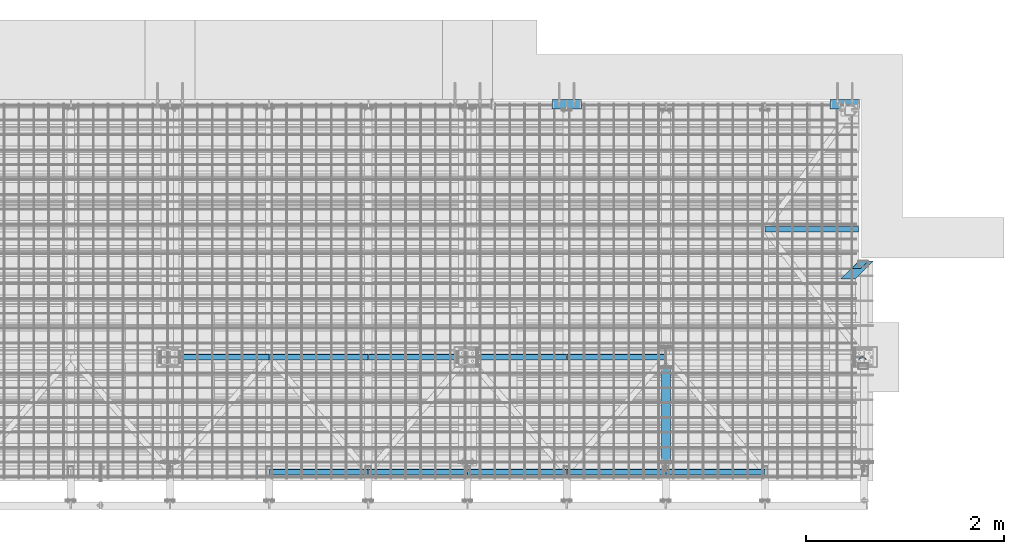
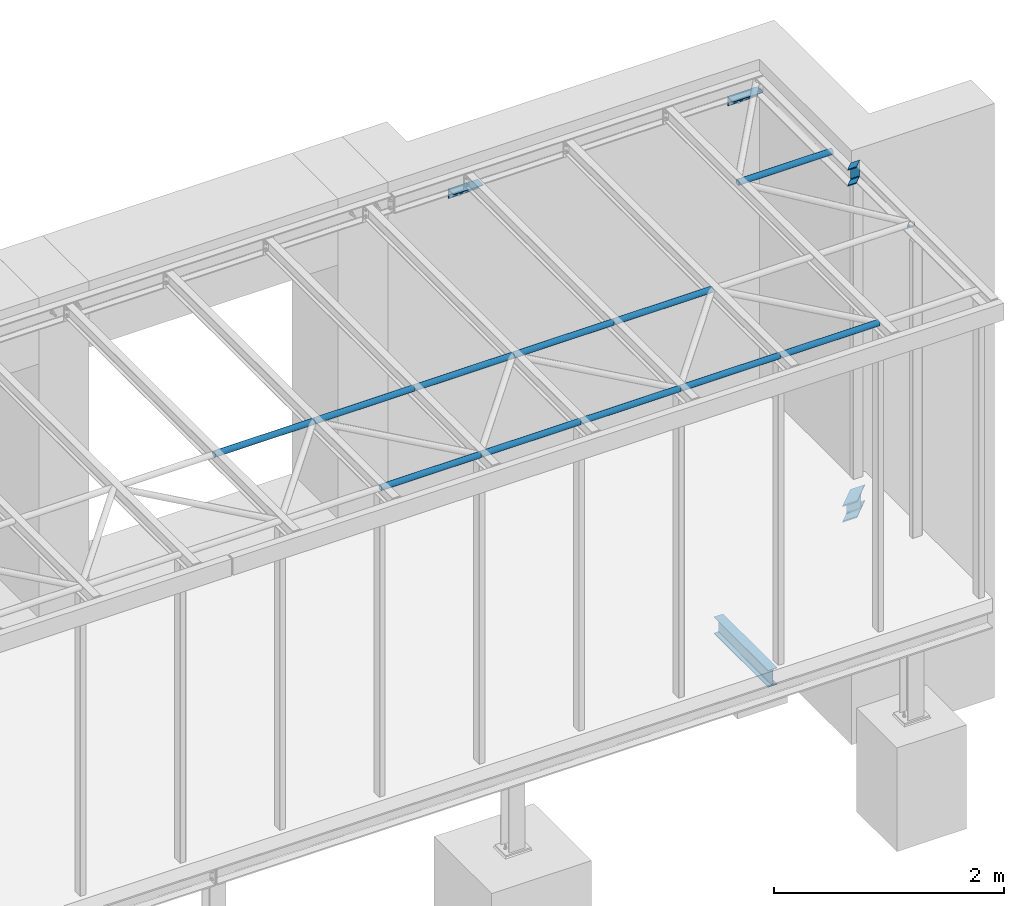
# One storey, part 10 of 27: 17 beams, 17 elements without a shape of their own.
"""IFC2X3 building model written with IfcOpenShell, lengths in millimetres."""

from ifc_helpers import new_model, si_unit, frame, origin_with_axes, origin_2d_with_axis, place, context, subcontext, project, spatial, hollow_circle, i_section, l_section, u_section, extrude, boolean, clip, halfspace, material, type_object, element, aggregate, save


model = new_model("IFC2X3")

# Units and contexts
model_context = context("Model", 3, precision=1e-05, world=origin_with_axes())
body_context = subcontext(model_context, "Body", "Model", "MODEL_VIEW")
ifc_project = project(units=[si_unit("LENGTHUNIT", "METRE", prefix="MILLI"), si_unit("AREAUNIT", "SQUARE_METRE"), si_unit("VOLUMEUNIT", "CUBIC_METRE"), si_unit("MASSUNIT", "GRAM", prefix="KILO"), si_unit("TIMEUNIT", "SECOND"), si_unit("PLANEANGLEUNIT", "RADIAN"), si_unit("SOLIDANGLEUNIT", "STERADIAN"), si_unit("THERMODYNAMICTEMPERATUREUNIT", "DEGREE_CELSIUS"), si_unit("LUMINOUSINTENSITYUNIT", "LUMEN")], contexts=[model_context])

# Site, building, storey
site_placement = place(None, origin_with_axes())
site = spatial("IfcSite", under=ifc_project, at=site_placement, Name="Undefined", CompositionType="ELEMENT")
building_placement = place(site_placement, origin_with_axes())
building = spatial("IfcBuilding", under=site, at=building_placement, Name="Undefined", CompositionType="ELEMENT")
storey_placement = place(building_placement, origin_with_axes())
storey = spatial("IfcBuildingStorey", under=building, at=storey_placement, Name="Undefined", CompositionType="ELEMENT", Elevation=0.0)

# Assembly, beam
assembly_1_placement = place(storey_placement, origin_with_axes())
assembly_1 = element("IfcElementAssembly", 1, at=assembly_1_placement, inside=storey, Name="Steel Assembly", AssemblyPlace="NOTDEFINED", PredefinedType="RIGID_FRAME")
ifc_material = material(Name="STEEL/S235JR")
beam_type_1 = type_object("IfcBeamType", Name="IPE180", PredefinedType="NOTDEFINED")
beam_1_placement = place(assembly_1_placement, frame((14050.0, 1150.0, -250.0), z_axis=(0.0, 0.0, 1.0), x_axis=(0.0, -1.0, 0.0)))
beam_1 = element("IfcBeam", 2, at=beam_1_placement, type_object=beam_type_1, material=ifc_material, Name="NOSNÍK", ObjectType="IPE180", context=body_context, shape_type="SweptSolid", body=[
    extrude(i_section(OverallWidth=91.0, OverallDepth=180.0, WebThickness=5.300000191, FlangeThickness=8.0, FilletRadius=9.0, at=origin_2d_with_axis()), frame((940.0, 0.0, 0.0), z_axis=(-1.0, 0.0, 0.0), x_axis=(0.0, -1.0, 0.0)), (0.0, 0.0, 1.0), 940.0),
])
aggregate(assembly_1, [beam_1])

assembly_2_placement = place(storey_placement, origin_with_axes())
assembly_2 = element("IfcElementAssembly", 3, at=assembly_2_placement, inside=storey, Name="Steel Assembly", AssemblyPlace="NOTDEFINED", PredefinedType="RIGID_FRAME")
beam_type_2 = type_object("IfcBeamType", Name="HEB180", PredefinedType="NOTDEFINED")
beam_2_placement = place(assembly_2_placement, frame((16150.0, 2140.0, -250.0), z_axis=(0.0, 0.0, -1.0), x_axis=(-1.0, 0.0, 0.0)))
beam_2 = element("IfcBeam", 4, at=beam_2_placement, type_object=beam_type_2, material=ifc_material, Name="NOSNÍK", ObjectType="HEB180", context=body_context, shape_type="Clipping", body=[
    clip(clip(extrude(i_section(OverallWidth=180.0, OverallDepth=180.0, WebThickness=8.5, FlangeThickness=14.0, FilletRadius=15.0, at=origin_2d_with_axis()), frame((345.0, 0.0, 0.0), z_axis=(-1.0, 0.0, 0.0), x_axis=(0.0, -1.0, 0.0)), (0.0, 0.0, 1.0), 345.0), halfspace(frame((0.0, 100.0, -90.0), z_axis=(-0.707106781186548, -0.707106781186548, 0.0), x_axis=(0.0, 0.0, 1.0)), False)), halfspace(frame((345.0, -100.0, -90.0), z_axis=(0.707106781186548, 0.707106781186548, 0.0), x_axis=(0.0, 0.0, 1.0)), False)),
])
aggregate(assembly_2, [beam_2])

assembly_3_placement = place(storey_placement, origin_with_axes())
assembly_3 = element("IfcElementAssembly", 5, at=assembly_3_placement, inside=storey, Name="Steel Assembly", AssemblyPlace="NOTDEFINED", PredefinedType="RIGID_FRAME")
beam_type_3 = type_object("IfcBeamType", Name="UPE180", PredefinedType="NOTDEFINED")
beam_3_placement = place(assembly_3_placement, frame((15925.0, 2192.5, 3210.0), z_axis=(0.0, 0.0, 1.0), x_axis=(1.0, 0.0, 0.0)))
beam_3 = element("IfcBeam", 6, at=beam_3_placement, type_object=beam_type_3, material=ifc_material, Name="NOSNÍK", ObjectType="UPE180", context=body_context, shape_type="Clipping", body=[
    clip(clip(extrude(u_section(Depth=180.0, FlangeWidth=75.0, WebThickness=5.5, FlangeThickness=10.5, FilletRadius=12.0, at=origin_2d_with_axis()), frame((165.0, 0.0, 0.0), z_axis=(-1.0, 0.0, 0.0), x_axis=(0.0, -1.0, 0.0)), (0.0, 0.0, 1.0), 165.0), halfspace(frame((90.0, -37.5, -90.0), z_axis=(0.707106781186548, -0.707106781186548, 0.0), x_axis=(0.0, 0.0, 1.0)), False)), halfspace(frame((75.0, 37.5, -90.0), z_axis=(-0.707106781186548, 0.707106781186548, 0.0), x_axis=(0.0, 0.0, 1.0)), False)),
])
aggregate(assembly_3, [beam_3])

assembly_4_placement = place(storey_placement, origin_with_axes())
assembly_4 = element("IfcElementAssembly", 7, at=assembly_4_placement, inside=storey, Name="Steel Assembly", AssemblyPlace="NOTDEFINED", PredefinedType="RIGID_FRAME")
beam_type_4 = type_object("IfcBeamType", Name="CHS60.3*5", PredefinedType="NOTDEFINED")
beam_4_placement = place(assembly_4_placement, frame((15050.0, 2550.0, 3230.0), z_axis=(0.0, 0.0, -1.0), x_axis=(1.0, 0.0, 0.0)))
beam_4 = element("IfcBeam", 8, at=beam_4_placement, type_object=beam_type_4, material=ifc_material, Name="NOSNÍK", ObjectType="CHS60.3*5", context=body_context, shape_type="SweptSolid", body=[
    extrude(hollow_circle(Radius=30.15, WallThickness=5.0, at=origin_2d_with_axis()), frame((945.0, 0.0, 0.0), z_axis=(-1.0, 0.0, 0.0), x_axis=(0.0, -1.0, 0.0)), (0.0, 0.0, 1.0), 945.0),
])
aggregate(assembly_4, [beam_4])

assembly_5_placement = place(storey_placement, origin_with_axes())
assembly_5 = element("IfcElementAssembly", 9, at=assembly_5_placement, inside=storey, Name="Steel Assembly", AssemblyPlace="NOTDEFINED", PredefinedType="RIGID_FRAME")
beam_5_placement = place(assembly_5_placement, frame((15050.0, 100.0, 3230.0), z_axis=(0.0, 0.0, -1.0), x_axis=(0.652939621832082, 0.757409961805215, 0.0)))
beam_5 = element("IfcBeam", 10, at=beam_5_placement, type_object=beam_type_4, material=ifc_material, Name="NOSNÍK", ObjectType="CHS60.3*5", context=body_context, shape_type="CSG", body=[
    boolean("DIFFERENCE", boolean("DIFFERENCE", boolean("DIFFERENCE", extrude(hollow_circle(Radius=30.15, WallThickness=5.0, at=origin_2d_with_axis()), frame((1531.53517752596, -1.81898940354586e-12, 0.0), z_axis=(-1.0, 0.0, 0.0), x_axis=(0.0, -1.0, 0.0)), (0.0, 0.0, 1.0), 1531.5), extrude(hollow_circle(Radius=30.15, WallThickness=5.0, at=origin_2d_with_axis()), frame((1554.06159447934, 26.1306441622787, 0.0), z_axis=(-0.652939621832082, -0.757409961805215, 0.0), x_axis=(0.757409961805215, -0.652939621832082, 0.0)), (0.0, 0.0, 1.0), 1034.5)), extrude(hollow_circle(Radius=30.15, WallThickness=5.0, at=origin_2d_with_axis()), frame((675.46603878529, 783.540605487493, 0.0), z_axis=(-0.652939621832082, -0.757409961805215, 0.0), x_axis=(0.757409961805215, -0.652939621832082, 0.0)), (0.0, 0.0, 1.0), 1032.1)), halfspace(frame((-31.3748924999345, 30.1499999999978, -30.1500000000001), z_axis=(-0.652939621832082, -0.757409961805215, 0.0), x_axis=(0.0, 0.0, 1.0)), False)),
])
aggregate(assembly_5, [beam_5])

assembly_6_placement = place(storey_placement, origin_with_axes())
assembly_6 = element("IfcElementAssembly", 11, at=assembly_6_placement, inside=storey, Name="Steel Assembly", AssemblyPlace="NOTDEFINED", PredefinedType="RIGID_FRAME")
beam_6_placement = place(assembly_6_placement, frame((14052.35, 100.0, 3230.0), z_axis=(0.0, 0.0, -1.0), x_axis=(1.0, 0.0, 0.0)))
beam_6 = element("IfcBeam", 12, at=beam_6_placement, type_object=beam_type_4, material=ifc_material, Name="NOSNÍK", ObjectType="CHS60.3*5", context=body_context, shape_type="SweptSolid", body=[
    extrude(hollow_circle(Radius=30.15, WallThickness=5.0, at=origin_2d_with_axis()), frame((995.299999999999, 0.0, 0.0), z_axis=(-1.0, 0.0, 0.0), x_axis=(0.0, -1.0, 0.0)), (0.0, 0.0, 1.0), 995.3),
])
aggregate(assembly_6, [beam_6])

assembly_7_placement = place(storey_placement, origin_with_axes())
assembly_7 = element("IfcElementAssembly", 13, at=assembly_7_placement, inside=storey, Name="Steel Assembly", AssemblyPlace="NOTDEFINED", PredefinedType="RIGID_FRAME")
beam_7_placement = place(assembly_7_placement, frame((13052.35, 100.0, 3230.0), z_axis=(0.0, 0.0, -1.0), x_axis=(1.0, 0.0, 0.0)))
beam_7 = element("IfcBeam", 14, at=beam_7_placement, type_object=beam_type_4, material=ifc_material, Name="NOSNÍK", ObjectType="CHS60.3*5", context=body_context, shape_type="SweptSolid", body=[
    extrude(hollow_circle(Radius=30.15, WallThickness=5.0, at=origin_2d_with_axis()), frame((995.299999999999, 0.0, 0.0), z_axis=(-1.0, 0.0, 0.0), x_axis=(0.0, -1.0, 0.0)), (0.0, 0.0, 1.0), 995.3),
])
aggregate(assembly_7, [beam_7])

assembly_8_placement = place(storey_placement, origin_with_axes())
assembly_8 = element("IfcElementAssembly", 15, at=assembly_8_placement, inside=storey, Name="Steel Assembly", AssemblyPlace="NOTDEFINED", PredefinedType="RIGID_FRAME")
beam_8_placement = place(assembly_8_placement, frame((12052.35, 100.0, 3230.0), z_axis=(0.0, 0.0, -1.0), x_axis=(1.0, 0.0, 0.0)))
beam_8 = element("IfcBeam", 16, at=beam_8_placement, type_object=beam_type_4, material=ifc_material, Name="NOSNÍK", ObjectType="CHS60.3*5", context=body_context, shape_type="SweptSolid", body=[
    extrude(hollow_circle(Radius=30.15, WallThickness=5.0, at=origin_2d_with_axis()), frame((995.299999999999, 0.0, 0.0), z_axis=(-1.0, 0.0, 0.0), x_axis=(0.0, -1.0, 0.0)), (0.0, 0.0, 1.0), 995.3),
])
aggregate(assembly_8, [beam_8])

assembly_9_placement = place(storey_placement, origin_with_axes())
assembly_9 = element("IfcElementAssembly", 17, at=assembly_9_placement, inside=storey, Name="Steel Assembly", AssemblyPlace="NOTDEFINED", PredefinedType="RIGID_FRAME")
beam_9_placement = place(assembly_9_placement, frame((11052.35, 100.0, 3230.0), z_axis=(0.0, 0.0, -1.0), x_axis=(1.0, 0.0, 0.0)))
beam_9 = element("IfcBeam", 18, at=beam_9_placement, type_object=beam_type_4, material=ifc_material, Name="NOSNÍK", ObjectType="CHS60.3*5", context=body_context, shape_type="SweptSolid", body=[
    extrude(hollow_circle(Radius=30.15, WallThickness=5.0, at=origin_2d_with_axis()), frame((995.299999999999, 0.0, 0.0), z_axis=(-1.0, 0.0, 0.0), x_axis=(0.0, -1.0, 0.0)), (0.0, 0.0, 1.0), 995.3),
])
aggregate(assembly_9, [beam_9])

assembly_10_placement = place(storey_placement, origin_with_axes())
assembly_10 = element("IfcElementAssembly", 19, at=assembly_10_placement, inside=storey, Name="Steel Assembly", AssemblyPlace="NOTDEFINED", PredefinedType="RIGID_FRAME")
beam_10_placement = place(assembly_10_placement, frame((10052.35, 100.0, 3230.0), z_axis=(0.0, 0.0, -1.0), x_axis=(1.0, 0.0, 0.0)))
beam_10 = element("IfcBeam", 20, at=beam_10_placement, type_object=beam_type_4, material=ifc_material, Name="NOSNÍK", ObjectType="CHS60.3*5", context=body_context, shape_type="SweptSolid", body=[
    extrude(hollow_circle(Radius=30.15, WallThickness=5.0, at=origin_2d_with_axis()), frame((995.299999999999, 0.0, 0.0), z_axis=(-1.0, 0.0, 0.0), x_axis=(0.0, -1.0, 0.0)), (0.0, 0.0, 1.0), 995.3),
])
aggregate(assembly_10, [beam_10])

assembly_11_placement = place(storey_placement, origin_with_axes())
assembly_11 = element("IfcElementAssembly", 21, at=assembly_11_placement, inside=storey, Name="Steel Assembly", AssemblyPlace="NOTDEFINED", PredefinedType="RIGID_FRAME")
beam_11_placement = place(assembly_11_placement, frame((13052.35, 1260.0, 3230.0), z_axis=(0.0, 0.0, -1.0), x_axis=(1.0, 0.0, 0.0)))
beam_11 = element("IfcBeam", 22, at=beam_11_placement, type_object=beam_type_4, material=ifc_material, Name="NOSNÍK", ObjectType="CHS60.3*5", context=body_context, shape_type="SweptSolid", body=[
    extrude(hollow_circle(Radius=30.15, WallThickness=5.0, at=origin_2d_with_axis()), frame((995.299999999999, 0.0, 0.0), z_axis=(-1.0, 0.0, 0.0), x_axis=(0.0, -1.0, 0.0)), (0.0, 0.0, 1.0), 995.3),
])
aggregate(assembly_11, [beam_11])

assembly_12_placement = place(storey_placement, origin_with_axes())
assembly_12 = element("IfcElementAssembly", 23, at=assembly_12_placement, inside=storey, Name="Steel Assembly", AssemblyPlace="NOTDEFINED", PredefinedType="RIGID_FRAME")
beam_12_placement = place(assembly_12_placement, frame((12052.35, 1260.0, 3230.0), z_axis=(0.0, 0.0, -1.0), x_axis=(1.0, 0.0, 0.0)))
beam_12 = element("IfcBeam", 24, at=beam_12_placement, type_object=beam_type_4, material=ifc_material, Name="NOSNÍK", ObjectType="CHS60.3*5", context=body_context, shape_type="SweptSolid", body=[
    extrude(hollow_circle(Radius=30.15, WallThickness=5.0, at=origin_2d_with_axis()), frame((995.299999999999, 0.0, 0.0), z_axis=(-1.0, 0.0, 0.0), x_axis=(0.0, -1.0, 0.0)), (0.0, 0.0, 1.0), 995.3),
])
aggregate(assembly_12, [beam_12])

assembly_13_placement = place(storey_placement, origin_with_axes())
assembly_13 = element("IfcElementAssembly", 25, at=assembly_13_placement, inside=storey, Name="Steel Assembly", AssemblyPlace="NOTDEFINED", PredefinedType="RIGID_FRAME")
beam_13_placement = place(assembly_13_placement, frame((11052.35, 1260.0, 3230.0), z_axis=(0.0, 0.0, -1.0), x_axis=(1.0, 0.0, 0.0)))
beam_13 = element("IfcBeam", 26, at=beam_13_placement, type_object=beam_type_4, material=ifc_material, Name="NOSNÍK", ObjectType="CHS60.3*5", context=body_context, shape_type="SweptSolid", body=[
    extrude(hollow_circle(Radius=30.15, WallThickness=5.0, at=origin_2d_with_axis()), frame((995.299999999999, 0.0, 0.0), z_axis=(-1.0, 0.0, 0.0), x_axis=(0.0, -1.0, 0.0)), (0.0, 0.0, 1.0), 995.3),
])
aggregate(assembly_13, [beam_13])

assembly_14_placement = place(storey_placement, origin_with_axes())
assembly_14 = element("IfcElementAssembly", 27, at=assembly_14_placement, inside=storey, Name="Steel Assembly", AssemblyPlace="NOTDEFINED", PredefinedType="RIGID_FRAME")
beam_14_placement = place(assembly_14_placement, frame((10052.35, 1260.0, 3230.0), z_axis=(0.0, 0.0, -1.0), x_axis=(1.0, 0.0, 0.0)))
beam_14 = element("IfcBeam", 28, at=beam_14_placement, type_object=beam_type_4, material=ifc_material, Name="NOSNÍK", ObjectType="CHS60.3*5", context=body_context, shape_type="SweptSolid", body=[
    extrude(hollow_circle(Radius=30.15, WallThickness=5.0, at=origin_2d_with_axis()), frame((995.299999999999, 0.0, 0.0), z_axis=(-1.0, 0.0, 0.0), x_axis=(0.0, -1.0, 0.0)), (0.0, 0.0, 1.0), 995.3),
])
aggregate(assembly_14, [beam_14])

assembly_15_placement = place(storey_placement, origin_with_axes())
assembly_15 = element("IfcElementAssembly", 29, at=assembly_15_placement, inside=storey, Name="Steel Assembly", AssemblyPlace="NOTDEFINED", PredefinedType="RIGID_FRAME")
beam_15_placement = place(assembly_15_placement, frame((9052.35, 1260.0, 3230.0), z_axis=(0.0, 0.0, -1.0), x_axis=(1.0, 0.0, 0.0)))
beam_15 = element("IfcBeam", 30, at=beam_15_placement, type_object=beam_type_4, material=ifc_material, Name="NOSNÍK", ObjectType="CHS60.3*5", context=body_context, shape_type="SweptSolid", body=[
    extrude(hollow_circle(Radius=30.15, WallThickness=5.0, at=origin_2d_with_axis()), frame((995.299999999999, 0.0, 0.0), z_axis=(-1.0, 0.0, 0.0), x_axis=(0.0, -1.0, 0.0)), (0.0, 0.0, 1.0), 995.3),
])
aggregate(assembly_15, [beam_15])

assembly_16_placement = place(storey_placement, origin_with_axes())
assembly_16 = element("IfcElementAssembly", 31, at=assembly_16_placement, inside=storey, Name="Steel Assembly", AssemblyPlace="NOTDEFINED", PredefinedType="RIGID_FRAME")
beam_type_5 = type_object("IfcBeamType", Name="L100*10", PredefinedType="NOTDEFINED")
beam_16_placement = place(assembly_16_placement, frame((13200.0, 3810.0, 3070.0), z_axis=(0.0, 0.0, -1.0), x_axis=(-1.0, 0.0, 0.0)))
beam_16 = element("IfcBeam", 32, at=beam_16_placement, type_object=beam_type_5, material=ifc_material, Name="NOSNÍK", ObjectType="L100*10", context=body_context, shape_type="SweptSolid", body=[
    extrude(l_section(Depth=100.0, Width=100.0, Thickness=10.0, FilletRadius=12.0, EdgeRadius=6.0, at=origin_2d_with_axis()), frame((300.0, 0.0, 0.0), z_axis=(-1.0, 0.0, 0.0), x_axis=(0.0, -1.0, 0.0)), (0.0, 0.0, 1.0), 300.0),
])
aggregate(assembly_16, [beam_16])

assembly_17_placement = place(storey_placement, origin_with_axes())
assembly_17 = element("IfcElementAssembly", 33, at=assembly_17_placement, inside=storey, Name="Steel Assembly", AssemblyPlace="NOTDEFINED", PredefinedType="RIGID_FRAME")
beam_17_placement = place(assembly_17_placement, frame((16005.0, 3810.0, 3070.0), z_axis=(0.0, 0.0, -1.0), x_axis=(-1.0, 0.0, 0.0)))
beam_17 = element("IfcBeam", 34, at=beam_17_placement, type_object=beam_type_5, material=ifc_material, Name="NOSNÍK", ObjectType="L100*10", context=body_context, shape_type="SweptSolid", body=[
    extrude(l_section(Depth=100.0, Width=100.0, Thickness=10.0, FilletRadius=12.0, EdgeRadius=6.0, at=origin_2d_with_axis()), frame((300.0, 0.0, 0.0), z_axis=(-1.0, 0.0, 0.0), x_axis=(0.0, -1.0, 0.0)), (0.0, 0.0, 1.0), 300.0),
])
aggregate(assembly_17, [beam_17])

save(model, "model.ifc")
